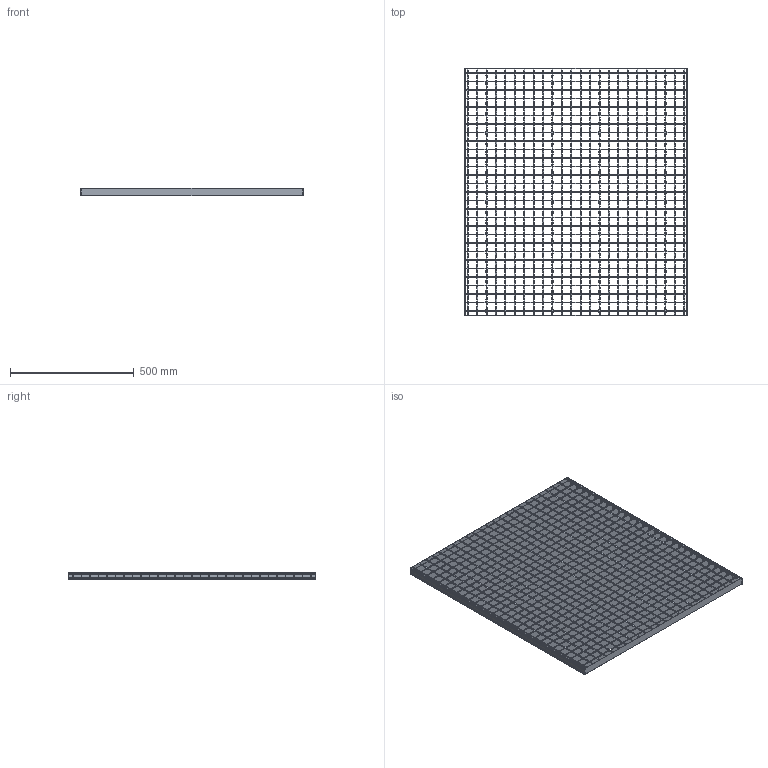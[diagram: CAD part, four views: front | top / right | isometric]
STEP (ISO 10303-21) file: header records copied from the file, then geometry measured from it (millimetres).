
FILE_DESCRIPTION(/* description */ ('STEP AP242','CAx-IF Rec.Pracs.---Representation and Presentation of Product Manufacturing Information (PMI)---4.0---2014-10-13','CAx-IF Rec.Pracs.---3D Tessellated Geometry---0.4---2014-09-14','2;1'),/* implementation_level */ '2;1');
FILE_NAME(/* name */ 'Lichtgitter_Forge_welded_gratings SP 230-34_38-2-1-1-900-1000_(350_1_0)',/* time_stamp */ '2026-04-23T13:29:27+02:00',/* author */ ('License CC BY-ND 4.0'),/* organization */ ('CADENAS'),/* preprocessor_version */ 'ST-DEVELOPER v20',/* originating_system */ 'PARTsolutions',/* authorisation */ ' ');
FILE_SCHEMA (('AP242_MANAGED_MODEL_BASED_3D_ENGINEERING_MIM_LF { 1 0 10303 442 1 1 4 }'));
Length unit declared in the file: millimetre
Products named in the file (5): Lichtgitter_Forge_welded_gratings SP 230-34/38-2-1-1-900-1000_(350_1_
0); Lichtgitter SP 230-34/38-2_(350_1_2_900_1000_Schweisspressroste)_VERT
ICAL_SIDES; Lichtgitter SP 230-34/38-2_(350_1_2_900_1000_Schweisspressroste)_HORI
ZONTAL_C; Lichtgitter SP 230-34/38-2_(350_1_2_900_1000_Schweisspressroste)_HORI
ZONTAL_SIDES; Lichtgitter SP 3.46530-34/38-3.465_(350_1_2_900_1000_Schweisspressros
te)_VERTICAL_C
Assembly tree (57 placements, depth 2):
  Lichtgitter_Forge_welded_gratings SP 230-34/38-2-1-1-900-1000_(350_1_
0)
    Lichtgitter SP 230-34/38-2_(350_1_2_900_1000_Schweisspressroste)_VERT
ICAL_SIDES  x2
    Lichtgitter SP 230-34/38-2_(350_1_2_900_1000_Schweisspressroste)_HORI
ZONTAL_C  x29
    Lichtgitter SP 230-34/38-2_(350_1_2_900_1000_Schweisspressroste)_HORI
ZONTAL_SIDES  x2
    Lichtgitter SP 3.46530-34/38-3.465_(350_1_2_900_1000_Schweisspressros
te)_VERTICAL_C  x24
Bounding box: 900 x 1000 x 30.72 mm (x, y, z)
Volume: 2038835.3 mm3; surface area: 2220918.2 mm2
Topology: 57 solids, 57 shells, 6462 faces, 14340 edges, 7992 vertices
Faces by surface type: bspline 4800, plane 950, cylinder 712
Entity records: 8707 total; most frequent: CARTESIAN_POINT 2718, ORIENTED_EDGE 1240, DIRECTION 956, EDGE_CURVE 620, LINE 552, VECTOR 552, VERTEX_POINT 348, EDGE_LOOP 280
